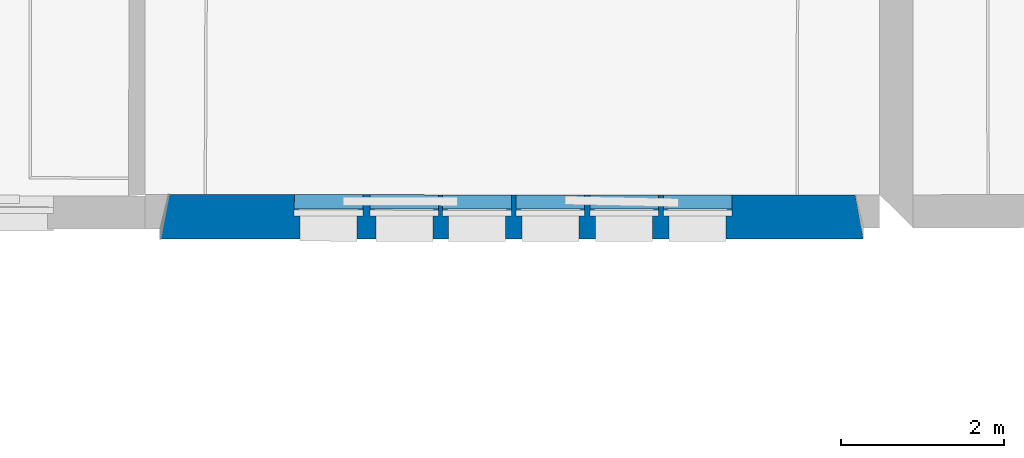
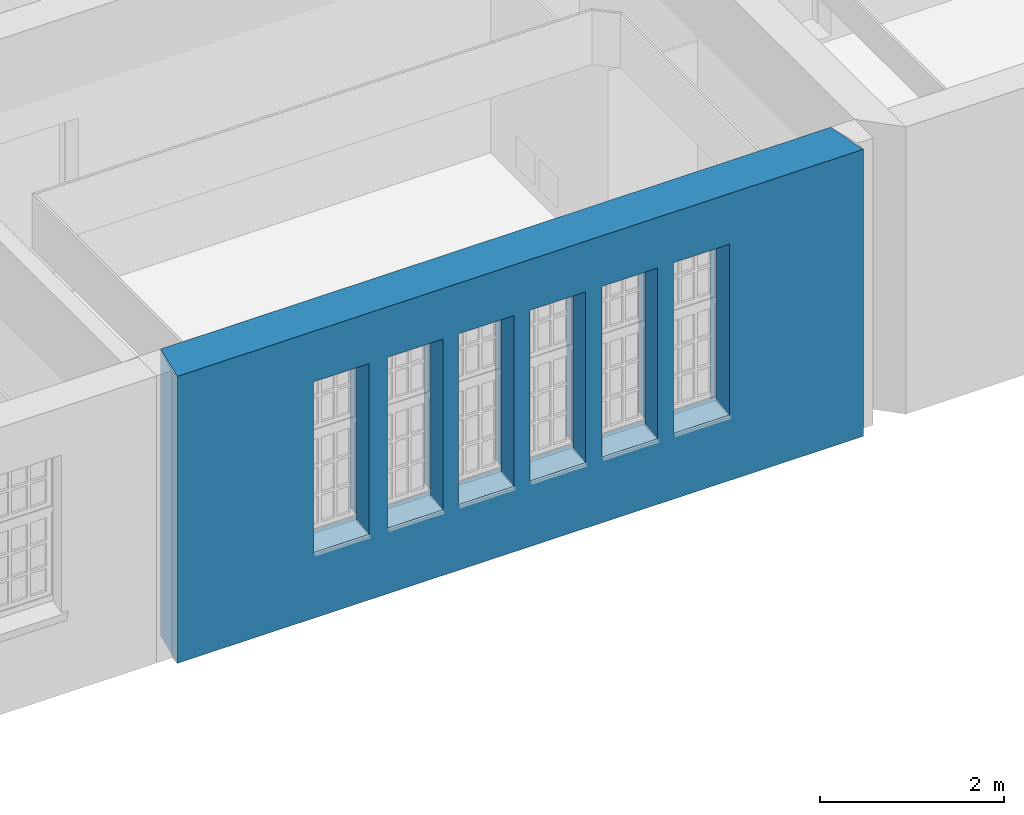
# One storey, part 31 of 158: 1 wall, 7 openings.
"""IFC2X3 building model written with IfcOpenShell, lengths in metres."""

from ifc_helpers import new_model, entity, si_unit, converted_unit, derived_unit, money_unit, direction, frame, origin_with_axes, origin_2d_with_axis, place, context, subcontext, project, spatial, polyline, rectangle, outline, extrude, material, layer, layer_set, layer_usage, type_object, element, save


model = new_model("IFC2X3")

# Units and contexts
model_context = context("Model", 3, precision=1e-05, world=origin_with_axes(), true_north=direction((0.0, 1.0)))
body_context = subcontext(model_context, "Body", "Model", "MODEL_VIEW")
ifc_project = project(units=[si_unit("LENGTHUNIT", "METRE"), si_unit("AREAUNIT", "SQUARE_METRE"), si_unit("VOLUMEUNIT", "CUBIC_METRE"), converted_unit("PLANEANGLEUNIT", "DEGREE", entity("IfcPlaneAngleMeasure", 0.0174532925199), si_unit("PLANEANGLEUNIT", "RADIAN"), dimensions=[0, 0, 0, 0, 0, 0, 0]), money_unit("EUR"), converted_unit("TIMEUNIT", "Year", entity("IfcTimeMeasure", 31556926.0), si_unit("TIMEUNIT", "SECOND"), dimensions=[0, 0, 1, 0, 0, 0, 0]), si_unit("MASSUNIT", "GRAM", prefix="KILO"), si_unit("THERMODYNAMICTEMPERATUREUNIT", "DEGREE_CELSIUS"), si_unit("LUMINOUSINTENSITYUNIT", "LUMEN"), si_unit("ENERGYUNIT", "JOULE", prefix="MEGA"), derived_unit("THERMALCONDUCTANCEUNIT", [(si_unit("POWERUNIT", "WATT"), 1), (si_unit("LENGTHUNIT", "METRE"), -1), (si_unit("THERMODYNAMICTEMPERATUREUNIT", "KELVIN"), -1)]), derived_unit("SPECIFICHEATCAPACITYUNIT", [(si_unit("ENERGYUNIT", "JOULE"), 1), (si_unit("MASSUNIT", "GRAM", prefix="KILO"), -1), (si_unit("THERMODYNAMICTEMPERATUREUNIT", "KELVIN"), -1)]), derived_unit("MASSDENSITYUNIT", [(si_unit("MASSUNIT", "GRAM", prefix="KILO"), 1), (si_unit("VOLUMEUNIT", "CUBIC_METRE"), -1)])], contexts=[model_context])

# Site, building, storey
site_placement = place(None, origin_with_axes())
site = spatial("IfcSite", under=ifc_project, at=site_placement, Name="Gelände", CompositionType="ELEMENT")
building_placement = place(site_placement, origin_with_axes())
building = spatial("IfcBuilding", under=site, at=building_placement, Name="Gebäude", CompositionType="ELEMENT")
storey_placement = place(building_placement, origin_with_axes())
storey = spatial("IfcBuildingStorey", under=building, at=storey_placement, Name="ERDGESCHOSS", CompositionType="ELEMENT", Elevation=0.0)

# Wall, openings
ifc_material = material(Name="05_ALLGEMEIN - TRAGENDE BAUTEILE")
ifc_layer = layer(ifc_material, 0.54, ventilated="UNKNOWN")
ifc_layer_set = layer_set([ifc_layer], Name="05_ALLGEMEIN - TRAGENDE BAUTEILE 0.54")
ifc_layer_usage = layer_usage(ifc_layer_set, "AXIS2", "NEGATIVE", 0.54)
wall_type = type_object("IfcWallType", Name="05_ALLGEMEIN - TRAGENDE BAUTEILE 540", PredefinedType="ELEMENTEDWALL")
wall_placement = place(storey_placement, frame((3.74546259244, 9.87440782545, -0.21), z_axis=(0.0, 0.0, 1.0), x_axis=(0.999999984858, -0.000174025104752, 0.0)))
wall = element("IfcWallStandardCase", 1, at=wall_placement, inside=storey, type_object=wall_type, material=ifc_layer_usage, Name="Wand-032", ObjectType="ELEMENTEDWALL", context=body_context, shape_type="SweptSolid", body=[
    extrude(outline(polyline([(0.0, 0.0), (8.61264989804, 0.0), (8.51264989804, 0.54), (0.10119688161, 0.54), (0.0, 0.0)])), origin_with_axes(), (0.0, 0.0, 1.0), 3.81),
])
opening_1_placement = place(wall_placement, frame((6.581017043, 0.0, 0.871267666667), z_axis=(0.0, 0.0, 1.0), x_axis=(1.0, 0.0, 0.0)))
element("IfcOpeningElement", 2, at=opening_1_placement, cuts=wall, Name="Fenster-015", context=body_context, shape_type="SweptSolid", body=[
    extrude(rectangle(XDim=0.700207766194, YDim=2.266332, at=origin_2d_with_axis()), frame((0.0, 0.28, 1.133166), z_axis=(0.0, 1.0, 0.0), x_axis=(1.0, 0.0, 0.0)), (0.0, 0.0, -1.0), 0.82),
    extrude(rectangle(XDim=0.840207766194, YDim=2.336332, at=origin_2d_with_axis()), frame((0.0, 0.28, 1.168166), z_axis=(0.0, -1.0, 0.0), x_axis=(1.0, 0.0, 0.0)), (0.0, 0.0, -1.0), 0.8),
])
opening_2_placement = place(wall_placement, frame((4.30254160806, 0.0, 0.14), z_axis=(0.0, 0.0, 1.0), x_axis=(1.0, 0.0, 0.0)))
element("IfcOpeningElement", 3, at=opening_2_placement, cuts=wall, Name="Fenster-017", ObjectType="Recess", context=body_context, shape_type="SweptSolid", body=[
    extrude(rectangle(XDim=5.40118313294, YDim=0.731267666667, at=origin_2d_with_axis()), frame((0.0, 0.365835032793, 0.365633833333), z_axis=(0.0, -1.0, 0.0), x_axis=(1.0, 0.0, 0.0)), (0.0, 0.0, -1.0), 0.714164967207),
])
opening_3_placement = place(wall_placement, frame((5.67973855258, 0.0, 0.871267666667), z_axis=(0.0, 0.0, 1.0), x_axis=(1.0, 0.0, 0.0)))
element("IfcOpeningElement", 4, at=opening_3_placement, cuts=wall, Name="Fenster-015", context=body_context, shape_type="SweptSolid", body=[
    extrude(rectangle(XDim=0.700207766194, YDim=2.266332, at=origin_2d_with_axis()), frame((0.0, 0.28, 1.133166), z_axis=(0.0, 1.0, 0.0), x_axis=(1.0, 0.0, 0.0)), (0.0, 0.0, -1.0), 0.82),
    extrude(rectangle(XDim=0.840207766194, YDim=2.336332, at=origin_2d_with_axis()), frame((0.0, 0.28, 1.168166), z_axis=(0.0, -1.0, 0.0), x_axis=(1.0, 0.0, 0.0)), (0.0, 0.0, -1.0), 0.8),
])
opening_4_placement = place(wall_placement, frame((4.77646361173, 0.0, 0.871267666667), z_axis=(0.0, 0.0, 1.0), x_axis=(1.0, 0.0, 0.0)))
element("IfcOpeningElement", 5, at=opening_4_placement, cuts=wall, Name="Fenster-015", context=body_context, shape_type="SweptSolid", body=[
    extrude(rectangle(XDim=0.700207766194, YDim=2.266332, at=origin_2d_with_axis()), frame((0.0, 0.28, 1.133166), z_axis=(0.0, 1.0, 0.0), x_axis=(1.0, 0.0, 0.0)), (0.0, 0.0, -1.0), 0.82),
    extrude(rectangle(XDim=0.840207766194, YDim=2.336332, at=origin_2d_with_axis()), frame((0.0, 0.28, 1.168166), z_axis=(0.0, -1.0, 0.0), x_axis=(1.0, 0.0, 0.0)), (0.0, 0.0, -1.0), 0.8),
])
opening_5_placement = place(wall_placement, frame((3.87720746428, 0.0, 0.871267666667), z_axis=(0.0, 0.0, 1.0), x_axis=(1.0, 0.0, 0.0)))
element("IfcOpeningElement", 6, at=opening_5_placement, cuts=wall, Name="Fenster-015", context=body_context, shape_type="SweptSolid", body=[
    extrude(rectangle(XDim=0.700207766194, YDim=2.266332, at=origin_2d_with_axis()), frame((0.0, 0.28, 1.133166), z_axis=(0.0, 1.0, 0.0), x_axis=(1.0, 0.0, 0.0)), (0.0, 0.0, -1.0), 0.82),
    extrude(rectangle(XDim=0.840207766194, YDim=2.336332, at=origin_2d_with_axis()), frame((0.0, 0.28, 1.168166), z_axis=(0.0, -1.0, 0.0), x_axis=(1.0, 0.0, 0.0)), (0.0, 0.0, -1.0), 0.8),
])
opening_6_placement = place(wall_placement, frame((2.98715699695, 0.0, 0.871267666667), z_axis=(0.0, 0.0, 1.0), x_axis=(1.0, 0.0, 0.0)))
element("IfcOpeningElement", 7, at=opening_6_placement, cuts=wall, Name="Fenster-015", context=body_context, shape_type="SweptSolid", body=[
    extrude(rectangle(XDim=0.700207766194, YDim=2.266332, at=origin_2d_with_axis()), frame((0.0, 0.28, 1.133166), z_axis=(0.0, 1.0, 0.0), x_axis=(1.0, 0.0, 0.0)), (0.0, 0.0, -1.0), 0.82),
    extrude(rectangle(XDim=0.840207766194, YDim=2.336332, at=origin_2d_with_axis()), frame((0.0, 0.28, 1.168166), z_axis=(0.0, -1.0, 0.0), x_axis=(1.0, 0.0, 0.0)), (0.0, 0.0, -1.0), 0.8),
])
opening_7_placement = place(wall_placement, frame((2.05809202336, 0.0, 0.871267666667), z_axis=(0.0, 0.0, 1.0), x_axis=(1.0, 0.0, 0.0)))
element("IfcOpeningElement", 8, at=opening_7_placement, cuts=wall, Name="Fenster-015", context=body_context, shape_type="SweptSolid", body=[
    extrude(rectangle(XDim=0.700207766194, YDim=2.266332, at=origin_2d_with_axis()), frame((0.0, 0.28, 1.133166), z_axis=(0.0, 1.0, 0.0), x_axis=(1.0, 0.0, 0.0)), (0.0, 0.0, -1.0), 0.82),
    extrude(rectangle(XDim=0.840207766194, YDim=2.336332, at=origin_2d_with_axis()), frame((0.0, 0.28, 1.168166), z_axis=(0.0, -1.0, 0.0), x_axis=(1.0, 0.0, 0.0)), (0.0, 0.0, -1.0), 0.8),
])

save(model, "model.ifc")
